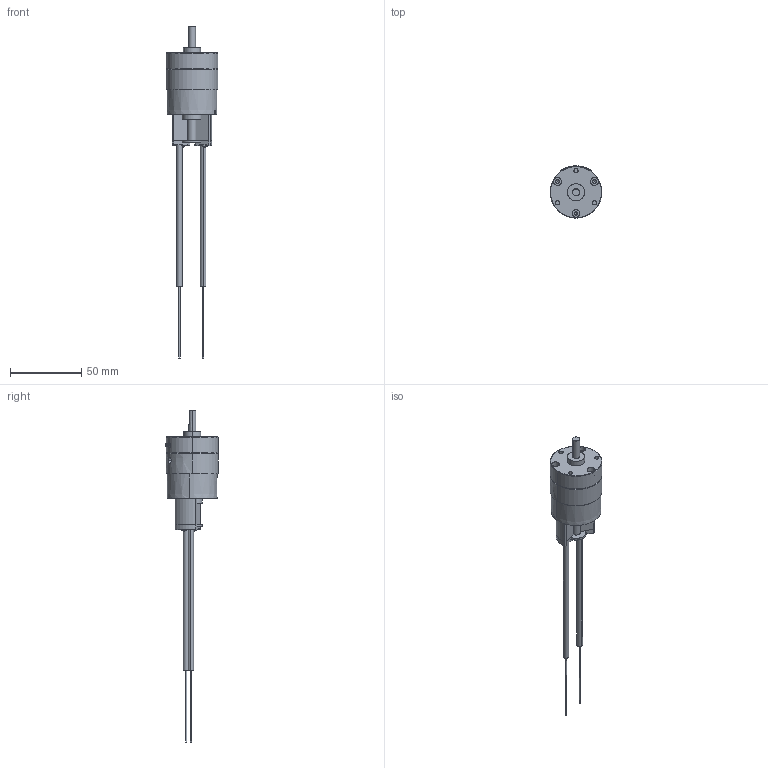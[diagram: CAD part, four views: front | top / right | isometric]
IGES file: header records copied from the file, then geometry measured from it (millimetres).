
Start section: SolidWorks IGES file using analytic representation for surfaces
Global section: file name: C:\Users\Chieh_Lu\Dropbox\¤u§@«Ç\PRO\PROA3S\PROA3S-#-#\PROA3S-#-#-#-FR.IGS; native system: SolidWorks 2014; preprocessor: SolidWorks 2014; author: Chieh_Lu; date: 150801.211427; units: millimetre
Bounding box: 36.5 x 36.8 x 233.7 mm (x, y, z)
Surface area: 23652.5 mm2 (no closed solid volume)
Topology: 0 solids, 0 shells, 503 faces, 7213 edges, 7203 vertices
Faces by surface type: revolution 252, bspline 251
